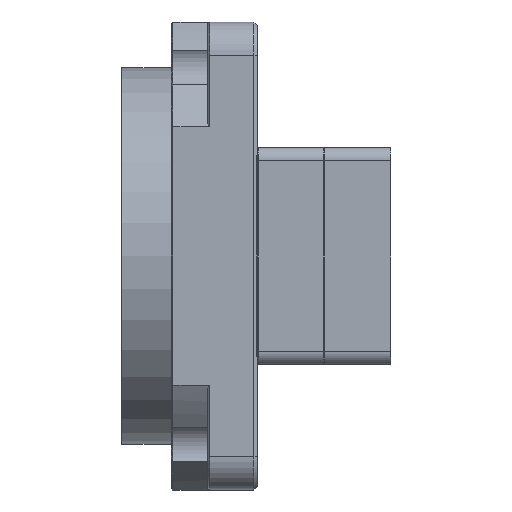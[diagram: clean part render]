
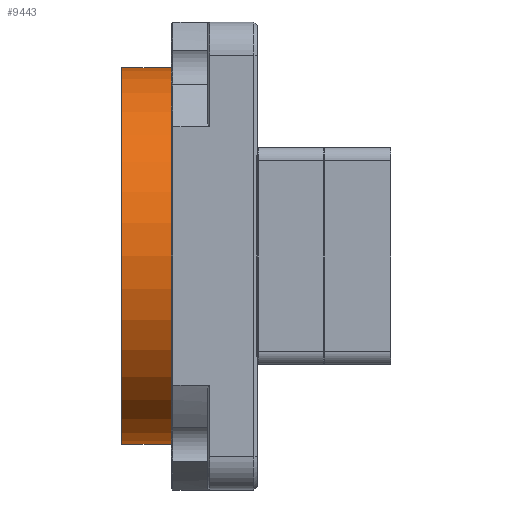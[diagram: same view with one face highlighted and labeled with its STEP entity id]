
A CAD part, left-side view. The second image highlights one B-rep face of the part: STEP entity #9443.
In plain terms, the highlighted cylindrical face has radius 112.5 mm (diameter 225 mm), a partial arc.
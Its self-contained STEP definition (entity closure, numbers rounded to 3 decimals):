
#6617 = CONICAL_SURFACE('',#6618,112.5,0.785);
#6618 = AXIS2_PLACEMENT_3D('',#6619,#6620,#6621);
#6619 = CARTESIAN_POINT('',(-229.364,88.399,
    345.));
#6620 = DIRECTION('',(0.,-1.,0.));
#6621 = DIRECTION('',(0.,0.,-1.));
#7725 = VERTEX_POINT('',#7726);
#7726 = CARTESIAN_POINT('',(-229.364,88.399,
    457.5));
#7749 = VERTEX_POINT('',#7750);
#7750 = CARTESIAN_POINT('',(-229.364,88.399,
    232.5));
#7771 = EDGE_CURVE('',#7725,#7749,#7772,.T.);
#7772 = SURFACE_CURVE('',#7773,(#7778,#7785),.PCURVE_S1.);
#7773 = CIRCLE('',#7774,112.5);
#7774 = AXIS2_PLACEMENT_3D('',#7775,#7776,#7777);
#7775 = CARTESIAN_POINT('',(-229.364,88.399,
    345.));
#7776 = DIRECTION('',(0.,-1.,-0.));
#7777 = DIRECTION('',(0.,0.,-1.));
#7778 = PCURVE('',#6617,#7779);
#7779 = DEFINITIONAL_REPRESENTATION('',(#7780),#7784);
#7780 = LINE('',#7781,#7782);
#7781 = CARTESIAN_POINT('',(0.,0.));
#7782 = VECTOR('',#7783,1.);
#7783 = DIRECTION('',(1.,0.));
#7784 = ( GEOMETRIC_REPRESENTATION_CONTEXT(2) 
PARAMETRIC_REPRESENTATION_CONTEXT() REPRESENTATION_CONTEXT('2D SPACE',''
  ) );
#7785 = PCURVE('',#7786,#7791);
#7786 = CYLINDRICAL_SURFACE('',#7787,112.5);
#7787 = AXIS2_PLACEMENT_3D('',#7788,#7789,#7790);
#7788 = CARTESIAN_POINT('',(-229.364,88.899,
    345.));
#7789 = DIRECTION('',(-0.,-1.,-0.));
#7790 = DIRECTION('',(0.,0.,-1.));
#7791 = DEFINITIONAL_REPRESENTATION('',(#7792),#7796);
#7792 = LINE('',#7793,#7794);
#7793 = CARTESIAN_POINT('',(0.,0.5));
#7794 = VECTOR('',#7795,1.);
#7795 = DIRECTION('',(1.,0.));
#7796 = ( GEOMETRIC_REPRESENTATION_CONTEXT(2) 
PARAMETRIC_REPRESENTATION_CONTEXT() REPRESENTATION_CONTEXT('2D SPACE',''
  ) );
#7818 = CYLINDRICAL_SURFACE('',#7819,112.5);
#7819 = AXIS2_PLACEMENT_3D('',#7820,#7821,#7822);
#7820 = CARTESIAN_POINT('',(-229.364,88.899,
    345.));
#7821 = DIRECTION('',(-0.,-1.,-0.));
#7822 = DIRECTION('',(0.,0.,-1.));
#9443 = ADVANCED_FACE('',(#9444),#7786,.T.);
#9444 = FACE_BOUND('',#9445,.T.);
#9445 = EDGE_LOOP('',(#9446,#9469,#9470,#9493));
#9446 = ORIENTED_EDGE('',*,*,#9447,.F.);
#9447 = EDGE_CURVE('',#7725,#9448,#9450,.T.);
#9448 = VERTEX_POINT('',#9449);
#9449 = CARTESIAN_POINT('',(-229.364,58.899,
    457.5));
#9450 = SURFACE_CURVE('',#9451,(#9455,#9462),.PCURVE_S1.);
#9451 = LINE('',#9452,#9453);
#9452 = CARTESIAN_POINT('',(-229.364,88.899,
    457.5));
#9453 = VECTOR('',#9454,1.);
#9454 = DIRECTION('',(-0.,-1.,-0.));
#9455 = PCURVE('',#7786,#9456);
#9456 = DEFINITIONAL_REPRESENTATION('',(#9457),#9461);
#9457 = LINE('',#9458,#9459);
#9458 = CARTESIAN_POINT('',(3.142,0.));
#9459 = VECTOR('',#9460,1.);
#9460 = DIRECTION('',(0.,1.));
#9461 = ( GEOMETRIC_REPRESENTATION_CONTEXT(2) 
PARAMETRIC_REPRESENTATION_CONTEXT() REPRESENTATION_CONTEXT('2D SPACE',''
  ) );
#9462 = PCURVE('',#7818,#9463);
#9463 = DEFINITIONAL_REPRESENTATION('',(#9464),#9468);
#9464 = LINE('',#9465,#9466);
#9465 = CARTESIAN_POINT('',(3.142,0.));
#9466 = VECTOR('',#9467,1.);
#9467 = DIRECTION('',(0.,1.));
#9468 = ( GEOMETRIC_REPRESENTATION_CONTEXT(2) 
PARAMETRIC_REPRESENTATION_CONTEXT() REPRESENTATION_CONTEXT('2D SPACE',''
  ) );
#9469 = ORIENTED_EDGE('',*,*,#7771,.T.);
#9470 = ORIENTED_EDGE('',*,*,#9471,.T.);
#9471 = EDGE_CURVE('',#7749,#9472,#9474,.T.);
#9472 = VERTEX_POINT('',#9473);
#9473 = CARTESIAN_POINT('',(-229.364,58.899,
    232.5));
#9474 = SURFACE_CURVE('',#9475,(#9479,#9486),.PCURVE_S1.);
#9475 = LINE('',#9476,#9477);
#9476 = CARTESIAN_POINT('',(-229.364,88.899,
    232.5));
#9477 = VECTOR('',#9478,1.);
#9478 = DIRECTION('',(-0.,-1.,-0.));
#9479 = PCURVE('',#7786,#9480);
#9480 = DEFINITIONAL_REPRESENTATION('',(#9481),#9485);
#9481 = LINE('',#9482,#9483);
#9482 = CARTESIAN_POINT('',(6.283,0.));
#9483 = VECTOR('',#9484,1.);
#9484 = DIRECTION('',(0.,1.));
#9485 = ( GEOMETRIC_REPRESENTATION_CONTEXT(2) 
PARAMETRIC_REPRESENTATION_CONTEXT() REPRESENTATION_CONTEXT('2D SPACE',''
  ) );
#9486 = PCURVE('',#7818,#9487);
#9487 = DEFINITIONAL_REPRESENTATION('',(#9488),#9492);
#9488 = LINE('',#9489,#9490);
#9489 = CARTESIAN_POINT('',(0.,0.));
#9490 = VECTOR('',#9491,1.);
#9491 = DIRECTION('',(0.,1.));
#9492 = ( GEOMETRIC_REPRESENTATION_CONTEXT(2) 
PARAMETRIC_REPRESENTATION_CONTEXT() REPRESENTATION_CONTEXT('2D SPACE',''
  ) );
#9493 = ORIENTED_EDGE('',*,*,#9494,.F.);
#9494 = EDGE_CURVE('',#9448,#9472,#9495,.T.);
#9495 = SURFACE_CURVE('',#9496,(#9501,#9508),.PCURVE_S1.);
#9496 = CIRCLE('',#9497,112.5);
#9497 = AXIS2_PLACEMENT_3D('',#9498,#9499,#9500);
#9498 = CARTESIAN_POINT('',(-229.364,58.899,
    345.));
#9499 = DIRECTION('',(0.,-1.,-0.));
#9500 = DIRECTION('',(0.,0.,-1.));
#9501 = PCURVE('',#7786,#9502);
#9502 = DEFINITIONAL_REPRESENTATION('',(#9503),#9507);
#9503 = LINE('',#9504,#9505);
#9504 = CARTESIAN_POINT('',(0.,30.));
#9505 = VECTOR('',#9506,1.);
#9506 = DIRECTION('',(1.,0.));
#9507 = ( GEOMETRIC_REPRESENTATION_CONTEXT(2) 
PARAMETRIC_REPRESENTATION_CONTEXT() REPRESENTATION_CONTEXT('2D SPACE',''
  ) );
#9508 = PCURVE('',#9509,#9514);
#9509 = PLANE('',#9510);
#9510 = AXIS2_PLACEMENT_3D('',#9511,#9512,#9513);
#9511 = CARTESIAN_POINT('',(-109.364,58.899,
    225.));
#9512 = DIRECTION('',(0.,1.,0.));
#9513 = DIRECTION('',(0.,-0.,1.));
#9514 = DEFINITIONAL_REPRESENTATION('',(#9515),#9523);
#9515 = ( BOUNDED_CURVE() B_SPLINE_CURVE(2,(#9516,#9517,#9518,#9519,
#9520,#9521,#9522),.UNSPECIFIED.,.T.,.F.) B_SPLINE_CURVE_WITH_KNOTS((1,2
    ,2,2,2,1),(-2.094,0.,2.094,4.189,
6.283,8.378),.UNSPECIFIED.) CURVE() 
GEOMETRIC_REPRESENTATION_ITEM() RATIONAL_B_SPLINE_CURVE((1.,0.5,1.,0.5,
1.,0.5,1.)) REPRESENTATION_ITEM('') );
#9516 = CARTESIAN_POINT('',(7.5,-120.));
#9517 = CARTESIAN_POINT('',(7.5,74.856));
#9518 = CARTESIAN_POINT('',(176.25,-22.572));
#9519 = CARTESIAN_POINT('',(345.,-120.));
#9520 = CARTESIAN_POINT('',(176.25,-217.428));
#9521 = CARTESIAN_POINT('',(7.5,-314.856));
#9522 = CARTESIAN_POINT('',(7.5,-120.));
#9523 = ( GEOMETRIC_REPRESENTATION_CONTEXT(2) 
PARAMETRIC_REPRESENTATION_CONTEXT() REPRESENTATION_CONTEXT('2D SPACE',''
  ) );
